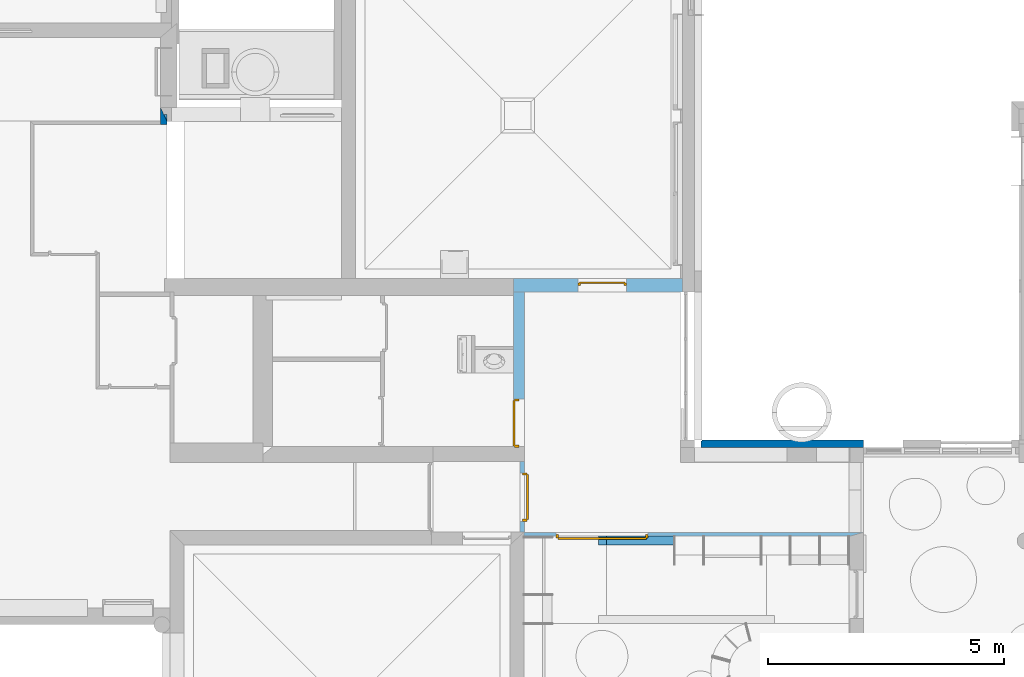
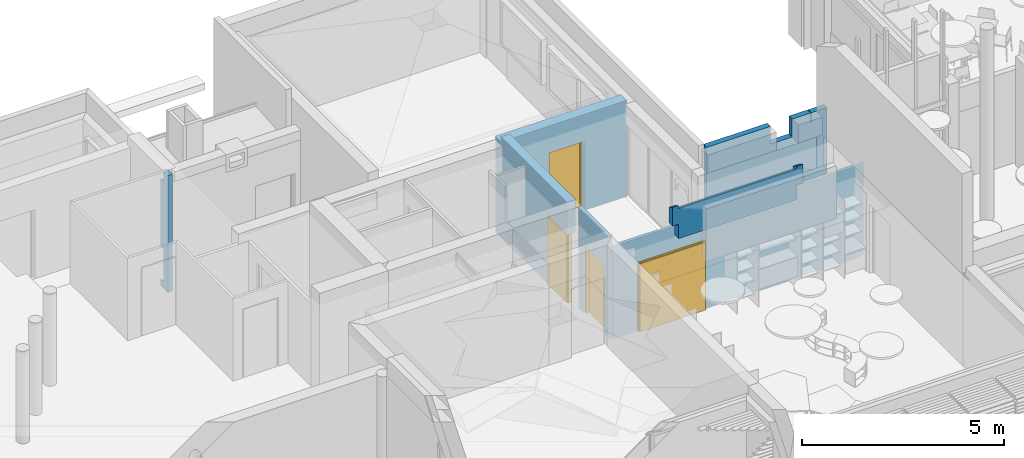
# One storey, part 39 of 64: 4 doors, 3 walls, 4 openings, plus 4 elements that do not belong to this part.
"""IFC2X3 building model written with IfcOpenShell, lengths in metres."""

from ifc_helpers import new_model, entity, si_unit, converted_unit, derived_unit, direction, frame, frame_2d, origin, origin_2d_with_axis, place, context, subcontext, project, spatial, polyline, rectangle, outline, extrude, faceted_brep, source, transform, mapped, material, layer, layer_set, layer_usage, type_object, type_shapes, element, fill, save


model = new_model("IFC2X3")

# Units and contexts
model_context = context("Model", 3, precision=1e-05, world=origin(), true_north=direction((6.123031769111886e-17, 1.0)))
body_context = subcontext(model_context, "Body", "Model", "MODEL_VIEW")
ifc_project = project(units=[si_unit("LENGTHUNIT", "METRE"), si_unit("AREAUNIT", "SQUARE_METRE"), si_unit("VOLUMEUNIT", "CUBIC_METRE"), converted_unit("PLANEANGLEUNIT", "DEGREE", entity("IfcRatioMeasure", 0.017453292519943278), si_unit("PLANEANGLEUNIT", "RADIAN"), dimensions=[0, 0, 0, 0, 0, 0, 0]), si_unit("MASSUNIT", "GRAM", prefix="KILO"), derived_unit("MASSDENSITYUNIT", [(si_unit("MASSUNIT", "GRAM", prefix="KILO"), 1), (si_unit("LENGTHUNIT", "METRE"), -3)]), derived_unit("MOMENTOFINERTIAUNIT", [(si_unit("LENGTHUNIT", "METRE"), 4)]), si_unit("TIMEUNIT", "SECOND"), si_unit("FREQUENCYUNIT", "HERTZ"), si_unit("THERMODYNAMICTEMPERATUREUNIT", "DEGREE_CELSIUS"), derived_unit("THERMALTRANSMITTANCEUNIT", [(si_unit("MASSUNIT", "GRAM", prefix="KILO"), 1), (si_unit("THERMODYNAMICTEMPERATUREUNIT", "KELVIN"), -1), (si_unit("TIMEUNIT", "SECOND"), -3)]), derived_unit("THERMALCONDUCTANCEUNIT", [(si_unit("MASSUNIT", "GRAM", prefix="KILO"), 1), (si_unit("LENGTHUNIT", "METRE"), 1), (si_unit("THERMODYNAMICTEMPERATUREUNIT", "KELVIN"), -1), (si_unit("TIMEUNIT", "SECOND"), -3)]), derived_unit("VOLUMETRICFLOWRATEUNIT", [(si_unit("LENGTHUNIT", "METRE"), 3), (si_unit("TIMEUNIT", "SECOND"), -1)]), derived_unit("MASSFLOWRATEUNIT", [(si_unit("MASSUNIT", "GRAM", prefix="KILO"), 1), (si_unit("TIMEUNIT", "SECOND"), -1)]), derived_unit("ROTATIONALFREQUENCYUNIT", [(si_unit("TIMEUNIT", "SECOND"), -1)]), si_unit("ELECTRICCURRENTUNIT", "AMPERE"), si_unit("ELECTRICVOLTAGEUNIT", "VOLT"), si_unit("POWERUNIT", "WATT"), si_unit("FORCEUNIT", "NEWTON", prefix="KILO"), si_unit("ILLUMINANCEUNIT", "LUX"), si_unit("LUMINOUSFLUXUNIT", "LUMEN"), si_unit("LUMINOUSINTENSITYUNIT", "CANDELA"), derived_unit("USERDEFINED", [(si_unit("MASSUNIT", "GRAM", prefix="KILO"), -1), (si_unit("LENGTHUNIT", "METRE"), -2), (si_unit("TIMEUNIT", "SECOND"), 3), (si_unit("LUMINOUSFLUXUNIT", "LUMEN"), 1)]), derived_unit("USERDEFINED", [(si_unit("MASSUNIT", "GRAM", prefix="KILO"), 1), (si_unit("LENGTHUNIT", "METRE"), 3), (si_unit("TIMEUNIT", "SECOND"), -3), (si_unit("ELECTRICCURRENTUNIT", "AMPERE"), -2)]), derived_unit("USERDEFINED", [(si_unit("LENGTHUNIT", "METRE"), 2), (si_unit("TIMEUNIT", "SECOND"), -2)]), derived_unit("SOUNDPOWERUNIT", [(si_unit("MASSUNIT", "GRAM", prefix="KILO"), 1), (si_unit("LENGTHUNIT", "METRE"), 2), (si_unit("TIMEUNIT", "SECOND"), -3)]), derived_unit("SOUNDPRESSUREUNIT", [(si_unit("MASSUNIT", "GRAM", prefix="KILO"), 1), (si_unit("LENGTHUNIT", "METRE"), -1), (si_unit("TIMEUNIT", "SECOND"), -2)]), derived_unit("LINEARVELOCITYUNIT", [(si_unit("LENGTHUNIT", "METRE"), 1), (si_unit("TIMEUNIT", "SECOND"), -1)]), si_unit("PRESSUREUNIT", "PASCAL"), derived_unit("USERDEFINED", [(si_unit("LENGTHUNIT", "METRE"), -2), (si_unit("MASSUNIT", "GRAM", prefix="KILO"), 1), (si_unit("TIMEUNIT", "SECOND"), -2)]), derived_unit("LINEARFORCEUNIT", [(si_unit("MASSUNIT", "GRAM", prefix="KILO"), 1), (si_unit("LENGTHUNIT", "METRE"), 1), (si_unit("TIMEUNIT", "SECOND"), -2), (si_unit("LENGTHUNIT", "METRE"), -1)]), derived_unit("PLANARFORCEUNIT", [(si_unit("MASSUNIT", "GRAM", prefix="KILO"), 1), (si_unit("LENGTHUNIT", "METRE"), 1), (si_unit("TIMEUNIT", "SECOND"), -2), (si_unit("LENGTHUNIT", "METRE"), -2)]), derived_unit("SPECIFICHEATCAPACITYUNIT", [(si_unit("LENGTHUNIT", "METRE"), 2), (si_unit("TIMEUNIT", "SECOND"), -2), (si_unit("THERMODYNAMICTEMPERATUREUNIT", "KELVIN"), -1)]), derived_unit("VAPORPERMEABILITYUNIT", [(si_unit("TIMEUNIT", "SECOND"), 1), (si_unit("LENGTHUNIT", "METRE"), -1)]), derived_unit("DYNAMICVISCOSITYUNIT", [(si_unit("MASSUNIT", "GRAM", prefix="KILO"), 1), (si_unit("LENGTHUNIT", "METRE"), -1), (si_unit("TIMEUNIT", "SECOND"), -1)]), derived_unit("THERMALEXPANSIONCOEFFICIENTUNIT", [(si_unit("THERMODYNAMICTEMPERATUREUNIT", "KELVIN"), -1)])], contexts=[model_context])

# Site, building, storey
site_placement = place(None, origin())
site = spatial("IfcSite", under=ifc_project, at=site_placement, Name="Default", CompositionType="ELEMENT")
building_placement = place(site_placement, origin())
building = spatial("IfcBuilding", under=site, at=building_placement, CompositionType="ELEMENT")
storey_placement = place(building_placement, origin())
storey = spatial("IfcBuildingStorey", under=building, at=storey_placement, Name="REZ-DE-CHAUSSÉE", CompositionType="ELEMENT", Elevation=0.0)

# Walls
wall_type_1 = type_object("IfcWallType", Name="MurExt-010", PredefinedType="NOTDEFINED")
wall_1_placement = place(storey_placement, frame((113.93075228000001, 15.3072094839, 0.0)))
element("IfcWall", 1, at=wall_1_placement, inside=storey, type_object=wall_type_1, Name="MurExt-010:MurExt-010", ObjectType="MurExt-010:MurExt-010", context=body_context, shape_type="Brep", body=[
    faceted_brep([(0.019999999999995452, 0.15999999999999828, 3.34), (0.019999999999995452, 0.14000000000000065, 3.34), (1.830000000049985, 0.14000000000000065, 3.34), (1.830000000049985, 0.15999999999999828, 3.34), (3.4500000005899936, 0.15999999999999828, 0.0), (3.4500000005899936, 0.14000000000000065, 0.0), (0.019999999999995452, 0.14000000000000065, 0.0), (0.019999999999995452, 0.15999999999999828, 0.0), (3.4500000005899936, 0.14000000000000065, 3.34), (2.4500000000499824, 0.14000000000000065, 3.34), (2.4500000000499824, 0.14000000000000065, 2.8), (1.830000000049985, 0.14000000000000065, 2.8), (3.4500000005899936, 0.15999999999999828, 3.34), (1.830000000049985, 0.15999999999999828, 2.8), (2.4500000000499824, 0.15999999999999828, 2.8), (2.4500000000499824, 0.15999999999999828, 3.34)], [[[0, 1, 2, 3]], [[4, 5, 6, 7]], [[5, 8, 9, 10, 11, 2, 1, 6]], [[12, 8, 5, 4]], [[12, 4, 7, 0, 3, 13, 14, 15]], [[1, 0, 7, 6]], [[11, 13, 3, 2]], [[14, 10, 9, 15]], [[13, 11, 10, 14]], [[8, 12, 15, 9]]]),
    faceted_brep([(0.0, 0.14000000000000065, 3.34), (0.0, 0.0, 3.34), (1.830000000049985, 0.0, 3.34), (1.830000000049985, 0.14000000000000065, 3.34), (3.4500000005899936, 0.14000000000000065, 0.0), (3.4500000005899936, 0.0, 0.0), (0.0, 0.0, 0.0), (0.0, 0.14000000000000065, 0.0), (3.4500000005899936, 0.0, 3.34), (3.0, 0.0, 3.34), (3.0, 0.0, 3.06), (2.9800000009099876, 0.0, 3.06), (2.9800000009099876, 0.0, 3.34), (2.4500000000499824, 0.0, 3.34), (2.4500000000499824, 0.0, 2.8), (1.830000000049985, 0.0, 2.8), (3.4500000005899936, 0.14000000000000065, 3.34), (1.830000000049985, 0.14000000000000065, 2.8), (2.4500000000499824, 0.14000000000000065, 2.8), (2.4500000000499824, 0.14000000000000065, 3.34), (2.9800000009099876, 0.14000000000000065, 3.34), (2.9800000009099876, 0.14000000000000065, 3.06), (3.0, 0.14000000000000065, 3.06), (3.0, 0.14000000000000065, 3.34)], [[[0, 1, 2, 3]], [[4, 5, 6, 7]], [[5, 8, 9, 10, 11, 12, 13, 14, 15, 2, 1, 6]], [[16, 8, 5, 4]], [[16, 4, 7, 0, 3, 17, 18, 19, 20, 21, 22, 23]], [[1, 0, 7, 6]], [[15, 17, 3, 2]], [[18, 14, 13, 19]], [[17, 15, 14, 18]], [[11, 21, 20, 12]], [[22, 10, 9, 23]], [[21, 11, 10, 22]], [[19, 13, 12, 20]], [[8, 16, 23, 9]]]),
])
wall_type_2 = type_object("IfcWallType", Name="MurExt-019", PredefinedType="NOTDEFINED")
wall_2_placement = place(storey_placement, frame((111.76075227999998, 13.237209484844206, 2.53)))
element("IfcWall", 2, at=wall_2_placement, inside=storey, type_object=wall_type_2, Name="MurExt-019:MurExt-019", ObjectType="MurExt-019:MurExt-019", context=body_context, shape_type="Brep", body=[
    faceted_brep([(0.17000000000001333, 1.3557929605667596e-09, 0.0), (0.17000000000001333, 0.1900000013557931, 0.0), (3.559999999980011, 0.1900000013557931, 0.0), (3.559999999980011, 1.3557929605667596e-09, 0.0), (0.17000000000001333, 1.3557929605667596e-09, 0.44000000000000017), (3.559999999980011, 1.3557929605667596e-09, 0.44000000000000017), (3.7299999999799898, 1.3557929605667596e-09, 0.44000000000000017), (3.7299999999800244, 1.3557929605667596e-09, 1.0132330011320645), (3.5600000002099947, 1.3557929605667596e-09, 1.01323300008), (3.5600000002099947, 1.3557929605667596e-09, 0.9179769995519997), (0.16999999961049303, 1.3557929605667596e-09, 0.9179769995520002), (0.1699999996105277, 1.3557929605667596e-09, 1.013232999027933), (0.0, 1.3557929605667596e-09, 1.0132330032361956), (0.0, 1.3557929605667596e-09, 0.44000000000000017), (3.7299999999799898, 0.1900000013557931, 0.44000000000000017), (3.7299999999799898, 0.19000000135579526, 0.9052560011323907), (0.17000000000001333, 0.1900000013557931, 0.44000000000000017), (0.0, 0.1900000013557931, 0.44000000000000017), (0.0, 0.1900000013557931, 0.9052559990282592), (0.16999999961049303, 0.1900000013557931, 0.9052559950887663), (0.16999999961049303, 0.1900000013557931, 0.8099999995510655), (3.5600000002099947, 0.1900000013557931, 0.8099999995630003), (3.5600000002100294, 0.1900000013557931, 0.9052559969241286), (3.559999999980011, 0.1900000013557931, 0.44000000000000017), (3.5600000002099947, 0.19000000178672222, 0.9052559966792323), (3.5600000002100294, 1.3557929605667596e-09, 1.0132329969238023), (3.5600000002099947, 0.0, 1.0132329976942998), (3.5600000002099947, 0.1900000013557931, 0.905255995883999), (0.16999999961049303, 0.0, 1.0132329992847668), (0.16999999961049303, 0.19000000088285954, 0.9052559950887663)], [[[0, 1, 2, 3]], [[4, 0, 3, 5, 6, 7, 8, 9, 10, 11, 12, 13]], [[6, 14, 15, 7]], [[1, 16, 17, 18, 19, 20, 21, 22, 15, 14, 23, 2]], [[17, 13, 12, 18]], [[4, 16, 1, 0]], [[16, 4, 13, 17]], [[23, 5, 3, 2]], [[5, 23, 14, 6]], [[24, 25, 7, 15]], [[26, 27, 21, 9]], [[28, 19, 18, 12]], [[9, 21, 20, 10]], [[29, 11, 10, 20]]]),
])

# Wall, opening, door
ifc_material_1 = material(Name="Appareillage - Pierre taillé")
ifc_layer_1 = layer(ifc_material_1, 0.29)
ifc_layer_set_1 = layer_set([ifc_layer_1], Name="Mur de base:Struct. - Pierre 290")
ifc_layer_usage_1 = layer_usage(ifc_layer_set_1, "AXIS2", "NEGATIVE", 0.145)
wall_type_3 = type_object("IfcWallType", Name="Mur de base:Struct. - Pierre 290", PredefinedType="STANDARD", material=ifc_layer_set_1)
wall_3_placement = place(storey_placement, frame((113.54075228, 18.752209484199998, 0.0), z_axis=(0.0, 0.0, 1.0), x_axis=(-1.0, 0.0, 0.0)))
wall_3 = element("IfcWallStandardCase", 3, at=wall_3_placement, inside=storey, type_object=wall_type_3, material=ifc_layer_usage_1, Name="MurExt-003", ObjectType="Mur de base:Struct. - Pierre 290", context=body_context, shape_type="SweptSolid", body=[
    extrude(rectangle(XDim=3.5900000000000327, YDim=0.28999999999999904, at=frame_2d((1.7950000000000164, 0.0), x_axis=(1.0, 0.0))), origin(), (0.0, 0.0, 1.0), 2.8999999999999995),
])
opening_1_placement = place(wall_3_placement, frame((113.54075228, 18.752209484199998, 0.0), z_axis=(0.0, 0.0, 1.0), x_axis=(-1.0, 0.0, 0.0)))
opening_1 = element("IfcOpeningElement", 4, at=opening_1_placement, cuts=wall_3, Name="MurExt-003", ObjectType="Opening", context=body_context, shape_type="SweptSolid", body=[
    extrude(rectangle(XDim=2.09, YDim=1.0300000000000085, at=frame_2d((0.0, 0.0), x_axis=(0.0, 1.0))), frame((111.83575227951, 19.2928094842, 1.045), z_axis=(0.0, -1.0, 0.0), x_axis=(1.0, 0.0, 0.0)), (0.0, 0.0, 1.0), 1.081200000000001),
])
ifc_material_2 = material(Name="Peinture - Gris clair")
door_style_1 = type_object("IfcDoorStyle", Name="Por-003", ConstructionType="NOTDEFINED", OperationType="SINGLE_SWING_RIGHT", ParameterTakesPrecedence=False, Sizeable=False, material=ifc_material_2)
shared_shape_1 = source(origin(), body_context, "Body", "Brep", [
    faceted_brep([(1.0299999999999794, 0.5906, 0.0), (0.9949999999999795, 0.5906, 0.0), (0.9949999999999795, 0.5906, 2.055), (0.03499999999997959, 0.5906, 2.055), (0.03499999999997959, 0.5906, 0.0), (0.0, 0.5906, 0.0), (0.0, 0.5906, 2.09), (1.0299999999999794, 0.5906, 2.09), (1.0299999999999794, 0.5406, 0.0), (0.9799999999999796, 0.5406, 0.0), (0.9799999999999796, 0.5756, 0.0), (0.9949999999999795, 0.5756, 0.0), (0.9949999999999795, 0.5756, 2.055), (0.03499999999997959, 0.5756, 2.055), (0.03499999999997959, 0.5756, 0.0), (0.04999999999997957, 0.5756, 0.0), (0.04999999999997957, 0.5406, 0.0), (0.0, 0.5406, 0.0), (0.0, 0.5406, 2.09), (1.0299999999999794, 0.5406, 2.09), (0.04999999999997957, 0.5406, 2.04), (0.9799999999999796, 0.5406, 2.04), (0.9799999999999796, 0.5756, 2.04), (0.04999999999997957, 0.5756, 2.04), (0.9949999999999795, 0.6156, 0.0), (0.03499999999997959, 0.6156, 0.0), (0.9949999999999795, 0.6156, 2.055), (0.03499999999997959, 0.6156, 2.055)], [[[0, 1, 2, 3, 4, 5, 6, 7]], [[0, 8, 9, 10, 11, 1]], [[1, 11, 12, 2]], [[2, 12, 13, 3]], [[3, 13, 14, 4]], [[5, 4, 14, 15, 16, 17]], [[18, 6, 5, 17]], [[19, 7, 6, 18]], [[8, 0, 7, 19]], [[9, 8, 19, 18, 17, 16, 20, 21]], [[10, 9, 21, 22]], [[11, 10, 22, 23, 15, 14, 13, 12]], [[23, 20, 16, 15]], [[22, 21, 20, 23]], [[24, 11, 14, 25]], [[26, 12, 11, 24]], [[11, 12, 13, 14]], [[25, 14, 13, 27]], [[24, 25, 27, 26]], [[27, 13, 12, 26]]]),
])
type_shapes(door_style_1, [shared_shape_1])
door_1_placement = place(opening_1_placement, frame((111.32075227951, 18.211609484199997, 0.0)))
door_1 = element("IfcDoor", 5, at=door_1_placement, inside=storey, type_object=door_style_1, material=ifc_material_2, Name="Por-003 13003:Por-003 13003", ObjectType="Por-003 13003:Por-003 13003", OverallHeight=2.09, OverallWidth=1.0300000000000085, context=body_context, shape_type="MappedRepresentation", body=[
    mapped(shared_shape_1, transform((0.0, 0.0, 0.0), scale=1.0)),
])
fill(opening_1, door_1)

ifc_layer_2 = layer(ifc_material_1, 0.1)
ifc_layer_set_2 = layer_set([ifc_layer_2], Name="Mur de base:Struct. - Pierre 100")
ifc_layer_usage_2 = layer_usage(ifc_layer_set_2, "AXIS2", "NEGATIVE", 0.05)
wall_type_4 = type_object("IfcWallType", Name="Mur de base:Struct. - Pierre 100", PredefinedType="STANDARD", material=ifc_layer_set_2)
wall_4_placement = place(storey_placement, frame((110.14075227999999, 15.017209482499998, 0.0), z_axis=(0.0, 0.0, 1.0), x_axis=(0.0, -1.0, 0.0)))
wall_4 = element("IfcWallStandardCase", 6, at=wall_4_placement, inside=storey, type_object=wall_type_4, material=ifc_layer_usage_2, Name="MurExt-004", ObjectType="Mur de base:Struct. - Pierre 100", context=body_context, shape_type="SweptSolid", body=[
    extrude(rectangle(XDim=1.4999999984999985, YDim=0.10000000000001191, at=frame_2d((0.7499999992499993, 0.0), x_axis=(-1.0, 0.0))), origin(), (0.0, 0.0, 1.0), 3.06),
])
opening_2_placement = place(wall_4_placement, frame((15.017209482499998, -110.14075227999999, 0.0), z_axis=(0.0, 0.0, 1.0), x_axis=(0.0, 1.0, 0.0)))
opening_2 = element("IfcOpeningElement", 7, at=opening_2_placement, cuts=wall_4, Name="MurExt-004", ObjectType="Opening", context=body_context, shape_type="SweptSolid", body=[
    extrude(rectangle(XDim=2.09, YDim=1.0299999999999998, at=frame_2d((0.0, 0.0), x_axis=(0.0, 1.0))), frame((109.75315227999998, 14.257209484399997, 1.045), z_axis=(1.0, 0.0, 0.0), x_axis=(0.0, -1.0, 0.0)), (0.0, 0.0, 1.0), 0.775199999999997),
])
door_style_2 = type_object("IfcDoorStyle", Name="Por-003", ConstructionType="NOTDEFINED", OperationType="SINGLE_SWING_LEFT", ParameterTakesPrecedence=False, Sizeable=False, material=ifc_material_2)
shared_shape_2 = source(origin(), body_context, "Body", "Brep", [
    faceted_brep([(0.0, -0.2876000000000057, 0.0), (0.0, -0.2876000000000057, 2.09), (1.0299999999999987, -0.2876000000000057, 2.09), (1.0299999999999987, -0.2876000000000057, 0.0), (0.9949999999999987, -0.2876000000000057, 0.0), (0.9949999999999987, -0.2876000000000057, 2.055), (0.03499999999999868, -0.2876000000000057, 2.055), (0.03499999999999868, -0.2876000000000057, 0.0), (0.0, -0.3876000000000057, 0.0), (0.0, -0.3876000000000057, 2.09), (1.0299999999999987, -0.3876000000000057, 2.09), (1.0299999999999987, -0.3876000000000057, 0.0), (0.9799999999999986, -0.3876000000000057, 0.0), (0.9799999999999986, -0.3026000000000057, 0.0), (0.9949999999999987, -0.3026000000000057, 0.0), (0.9949999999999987, -0.3026000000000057, 2.055), (0.03499999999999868, -0.3026000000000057, 2.055), (0.03499999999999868, -0.3026000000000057, 0.0), (0.04999999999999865, -0.3026000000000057, 0.0), (0.04999999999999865, -0.3876000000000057, 0.0), (0.9799999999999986, -0.3876000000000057, 2.04), (0.04999999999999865, -0.3876000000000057, 2.04), (0.9799999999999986, -0.3026000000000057, 2.04), (0.04999999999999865, -0.3026000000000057, 2.04), (0.03499999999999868, -0.26260000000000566, 0.0), (0.9949999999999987, -0.26260000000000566, 0.0), (0.03499999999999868, -0.26260000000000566, 2.055), (0.9949999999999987, -0.26260000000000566, 2.055)], [[[0, 1, 2, 3, 4, 5, 6, 7]], [[8, 9, 1, 0]], [[9, 10, 2, 1]], [[10, 11, 3, 2]], [[3, 11, 12, 13, 14, 4]], [[5, 4, 14, 15]], [[6, 5, 15, 16]], [[7, 6, 16, 17]], [[0, 7, 17, 18, 19, 8]], [[19, 8, 9, 10, 11, 12, 20, 21]], [[22, 13, 12, 20]], [[17, 16, 15, 14, 13, 22, 23, 18]], [[18, 23, 21, 19]], [[23, 22, 20, 21]], [[24, 25, 14, 17]], [[24, 26, 27, 25]], [[25, 27, 15, 14]], [[17, 14, 15, 16]], [[26, 24, 17, 16]], [[27, 26, 16, 15]]]),
])
type_shapes(door_style_2, [shared_shape_2])
door_2_placement = place(opening_2_placement, frame((110.52835227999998, 14.772209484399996, 0.0), z_axis=(0.0, 0.0, 1.0), x_axis=(0.0, -1.0, 0.0)))
door_2 = element("IfcDoor", 8, at=door_2_placement, inside=storey, type_object=door_style_2, material=ifc_material_2, Name="Por-003 22620:Por-003 22620", ObjectType="Por-003 22620:Por-003 22620", OverallHeight=2.09, OverallWidth=1.0299999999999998, context=body_context, shape_type="MappedRepresentation", body=[
    mapped(shared_shape_2, transform((0.0, 0.0, 0.0), scale=1.0)),
])
fill(opening_2, door_2)

# Wall
ifc_material_3 = material(Name="Plâtre - Plaques de plâtre")
ifc_layer_3 = layer(ifc_material_3, 0.013)
ifc_material_4 = material(Name="Isolation - Fibre de verre")
ifc_layer_4 = layer(ifc_material_4, 0.127)
ifc_layer_set_3 = layer_set([ifc_layer_3, ifc_layer_4], Name="Mur de base:ABA doublage 14cm 140")
wall_type_5 = type_object("IfcWallType", Name="Mur de base:ABA doublage 14cm 140", PredefinedType="STANDARD", material=ifc_layer_set_3)
wall_5_placement = place(storey_placement, frame((102.53075227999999, 22.167209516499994, -1.1999999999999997), z_axis=(0.0, 0.0, 1.0), x_axis=(0.0, 1.0, 0.0)))
element("IfcWallStandardCase", 9, at=wall_5_placement, inside=storey, type_object=wall_type_5, Name="MurExt-026", ObjectType="Mur de base:ABA doublage 14cm 140", context=body_context, shape_type="Brep", body=[
    faceted_brep([(0.0, -0.07000000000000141, 0.0), (0.05999996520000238, -0.07000000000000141, 0.0), (0.05999996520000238, -0.07000000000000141, 0.2), (0.20999996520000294, -0.07000000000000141, 0.2), (0.20999996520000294, -0.07000000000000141, 1.1999999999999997), (0.05999996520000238, -0.07000000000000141, 1.1999999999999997), (0.05999996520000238, -0.07000000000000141, 3.2499999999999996), (0.20999996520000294, -0.07000000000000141, 3.249999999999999), (0.20999996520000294, -0.07000000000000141, 3.54), (0.0, -0.07000000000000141, 3.54), (0.0, 0.07000000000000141, 0.0), (0.0, 0.07000000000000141, 1.1999999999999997), (0.0, 0.07000000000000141, 3.54), (0.20999996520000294, 0.07000000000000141, 3.54), (0.20999996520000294, 0.07000000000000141, 3.2499999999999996), (0.3599999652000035, 0.07000000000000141, 3.2499999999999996), (0.3599999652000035, 0.07000000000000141, 1.1999999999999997), (0.20999996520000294, 0.07000000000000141, 1.1999999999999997), (0.20999996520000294, 0.07000000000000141, 0.2), (0.3599999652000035, 0.07000000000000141, 0.2), (0.3599999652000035, 0.07000000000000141, 0.0), (0.20999996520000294, 0.0, 0.2), (0.20999996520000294, 0.0, 1.1999999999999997), (0.20999996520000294, 0.0, 3.2499999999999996)], [[[0, 1, 2, 3, 4, 5, 6, 7, 8, 9]], [[10, 11, 12, 13, 14, 15, 16, 17, 18, 19, 20]], [[1, 0, 10, 20]], [[9, 8, 13, 12]], [[0, 9, 12, 11, 10]], [[18, 21, 19]], [[4, 3, 21, 18, 17, 22]], [[16, 22, 17]], [[8, 7, 23, 14, 13]], [[14, 23, 15]], [[2, 1, 20, 19, 21]], [[6, 5, 22, 16, 15, 23]], [[21, 3, 2]], [[22, 5, 4]], [[23, 7, 6]]]),
])

# Wall, opening, door
ifc_layer_5 = layer(ifc_material_1, 0.08)
ifc_layer_set_4 = layer_set([ifc_layer_5], Name="Mur de base:Struct. - Pierre 80")
ifc_layer_usage_3 = layer_usage(ifc_layer_set_4, "AXIS2", "NEGATIVE", 0.04)
wall_type_6 = type_object("IfcWallType", Name="Mur de base:Struct. - Pierre 80", PredefinedType="STANDARD", material=ifc_layer_set_4)
wall_6_placement = place(storey_placement, frame((110.17075228, 13.4672094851, 0.0)))
wall_6 = element("IfcWallStandardCase", 10, at=wall_6_placement, inside=storey, type_object=wall_type_6, material=ifc_layer_usage_3, Name="MurExt-007", ObjectType="Mur de base:Struct. - Pierre 80", context=body_context, shape_type="SweptSolid", body=[
    extrude(outline(polyline([(0.0, -0.03999999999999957), (6.920000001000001, -0.03999999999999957), (7.2100000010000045, 0.03999999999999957), (0.0, 0.03999999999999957), (0.0, -0.03999999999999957)])), origin(), (0.0, 0.0, 1.0), 2.8),
])
opening_3_placement = place(wall_6_placement, frame((-110.17075228, -13.4672094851, 0.0)))
opening_3 = element("IfcOpeningElement", 11, at=opening_3_placement, cuts=wall_6, Name="MurExt-007", ObjectType="Opening", context=body_context, shape_type="SweptSolid", body=[
    extrude(rectangle(XDim=2.09, YDim=1.9500000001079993, at=frame_2d((0.0, 8.659739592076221e-15), x_axis=(1.0, 0.0))), frame((111.83075228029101, 13.3856094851, 1.045), z_axis=(0.0, 1.0, 0.0), x_axis=(0.0, 0.0, -1.0)), (0.0, 0.0, 1.0), 0.16320000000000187),
])
door_style_3 = type_object("IfcDoorStyle", Name="Por-003", ConstructionType="NOTDEFINED", OperationType="DOUBLE_DOOR_SINGLE_SWING", ParameterTakesPrecedence=False, Sizeable=False, material=ifc_material_2)
shared_shape_3 = source(origin(), body_context, "Body", "Brep", [
    faceted_brep([(0.0, 0.16160000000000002, 0.0), (0.0, 0.16160000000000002, 2.09), (1.9500000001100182, 0.16160000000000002, 2.09), (1.9500000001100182, 0.16160000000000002, 0.0), (1.9150000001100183, 0.16160000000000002, 0.0), (1.9150000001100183, 0.16160000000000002, 2.055), (0.03500000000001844, 0.16160000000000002, 2.055), (0.03500000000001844, 0.16160000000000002, 0.0), (0.0, 0.08159999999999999, 0.0), (0.0, 0.08159999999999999, 2.09), (1.9500000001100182, 0.08159999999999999, 2.09), (1.9500000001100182, 0.08159999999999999, 0.0), (1.9000000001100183, 0.08159999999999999, 0.0), (1.9000000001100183, 0.14659999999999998, 0.0), (1.9150000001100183, 0.14659999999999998, 0.0), (1.9150000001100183, 0.14659999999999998, 2.055), (0.03500000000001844, 0.14659999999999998, 2.055), (0.03500000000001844, 0.14659999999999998, 0.0), (0.05000000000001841, 0.14659999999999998, 0.0), (0.05000000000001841, 0.08159999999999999, 0.0), (1.9000000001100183, 0.08159999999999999, 2.04), (0.05000000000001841, 0.08159999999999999, 2.04), (1.9000000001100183, 0.14659999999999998, 2.04), (0.05000000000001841, 0.14659999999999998, 2.04), (1.9125000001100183, 0.1866, 0.0), (1.9125000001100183, 0.14659999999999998, 0.0), (0.9775000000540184, 0.14659999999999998, 0.0), (0.9775000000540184, 0.1866, 0.0), (1.9125000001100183, 0.1866, 2.055), (1.9125000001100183, 0.14659999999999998, 2.055), (0.9775000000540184, 0.14659999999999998, 2.055), (0.9775000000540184, 0.1866, 2.055), (0.03500000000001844, 0.1866, 0.0), (0.9750000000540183, 0.1866, 0.0), (0.9750000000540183, 0.14659999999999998, 0.0), (0.03500000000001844, 0.1866, 2.055), (0.9750000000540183, 0.1866, 2.055), (0.9750000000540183, 0.14659999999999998, 2.055), (0.9600000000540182, 0.1916, 0.0), (0.9600000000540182, 0.1916, 2.055), (0.9900000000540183, 0.1916, 2.055), (0.9900000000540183, 0.1916, 0.0), (0.9600000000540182, 0.1866, 0.0), (0.9600000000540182, 0.1866, 2.055), (0.9900000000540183, 0.1866, 2.055), (0.9900000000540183, 0.1866, 0.0)], [[[0, 1, 2, 3, 4, 5, 6, 7]], [[8, 9, 1, 0]], [[9, 10, 2, 1]], [[10, 11, 3, 2]], [[3, 11, 12, 13, 14, 4]], [[5, 4, 14, 15]], [[6, 5, 15, 16]], [[7, 6, 16, 17]], [[0, 7, 17, 18, 19, 8]], [[19, 8, 9, 10, 11, 12, 20, 21]], [[22, 13, 12, 20]], [[17, 16, 15, 14, 13, 22, 23, 18]], [[18, 23, 21, 19]], [[23, 22, 20, 21]], [[24, 25, 26, 27]], [[28, 29, 25, 24]], [[25, 29, 30, 26]], [[27, 26, 30, 31]], [[24, 27, 31, 28]], [[31, 30, 29, 28]], [[32, 33, 34, 17]], [[32, 35, 36, 33]], [[33, 36, 37, 34]], [[17, 34, 37, 16]], [[35, 32, 17, 16]], [[36, 35, 16, 37]], [[38, 39, 40, 41]], [[38, 42, 43, 39]], [[39, 43, 44, 40]], [[40, 44, 45, 41]], [[41, 45, 42, 38]], [[45, 44, 43, 42]]]),
])
type_shapes(door_style_3, [shared_shape_3])
door_3_placement = place(opening_3_placement, frame((112.80575228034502, 13.548809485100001, 0.0), z_axis=(0.0, 0.0, 1.0), x_axis=(-1.0, 0.0, 0.0)))
door_3 = element("IfcDoor", 12, at=door_3_placement, inside=storey, type_object=door_style_3, material=ifc_material_2, Name="Por-003 24077:Por-003 24077", ObjectType="Por-003 24077:Por-003 24077", OverallHeight=2.09, OverallWidth=1.9500000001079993, context=body_context, shape_type="MappedRepresentation", body=[
    mapped(shared_shape_3, transform((0.0, 0.0, 0.0), scale=1.0)),
])
fill(opening_3, door_3)

ifc_layer_6 = layer(ifc_material_1, 0.24)
ifc_layer_set_5 = layer_set([ifc_layer_6], Name="Mur de base:Struct. - Pierre 240")
ifc_layer_usage_4 = layer_usage(ifc_layer_set_5, "AXIS2", "NEGATIVE", 0.12)
wall_type_7 = type_object("IfcWallType", Name="Mur de base:Struct. - Pierre 240", PredefinedType="STANDARD", material=ifc_layer_set_5)
wall_7_placement = place(storey_placement, frame((110.07075227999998, 18.6072094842, 0.0), z_axis=(0.0, 0.0, 1.0), x_axis=(0.0, -1.0, 0.0)))
wall_7 = element("IfcWallStandardCase", 13, at=wall_7_placement, inside=storey, type_object=wall_type_7, material=ifc_layer_usage_4, Name="MurExt-003", ObjectType="Mur de base:Struct. - Pierre 240", context=body_context, shape_type="SweptSolid", body=[
    extrude(rectangle(XDim=3.280000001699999, YDim=0.24000000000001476, at=frame_2d((1.6400000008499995, 0.0), x_axis=(-1.0, 0.0))), origin(), (0.0, 0.0, 1.0), 3.06),
])
opening_4_placement = place(wall_7_placement, frame((18.6072094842, -110.07075227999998, 0.0), z_axis=(0.0, 0.0, 1.0), x_axis=(0.0, 1.0, 0.0)))
opening_4 = element("IfcOpeningElement", 14, at=opening_4_placement, cuts=wall_7, Name="MurExt-003", ObjectType="Opening", context=body_context, shape_type="SweptSolid", body=[
    extrude(rectangle(XDim=2.09, YDim=1.0299999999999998, at=origin_2d_with_axis()), frame((109.68315227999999, 15.827209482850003, 1.045), z_axis=(1.0, 0.0, 0.0), x_axis=(0.0, 0.0, -1.0)), (0.0, 0.0, 1.0), 0.775199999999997),
])
door_style_4 = type_object("IfcDoorStyle", Name="Por-003", ConstructionType="NOTDEFINED", OperationType="SINGLE_SWING_LEFT", ParameterTakesPrecedence=False, Sizeable=False, material=ifc_material_2)
shared_shape_4 = source(origin(), body_context, "Body", "Brep", [
    faceted_brep([(0.0, 0.4875999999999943, 0.0), (0.0, 0.4875999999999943, 2.09), (1.0299999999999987, 0.4875999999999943, 2.09), (1.0299999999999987, 0.4875999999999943, 0.0), (0.9949999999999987, 0.4875999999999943, 0.0), (0.9949999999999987, 0.4875999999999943, 2.055), (0.03499999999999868, 0.4875999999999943, 2.055), (0.03499999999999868, 0.4875999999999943, 0.0), (0.0, 0.38759999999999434, 0.0), (0.0, 0.38759999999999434, 2.09), (1.0299999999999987, 0.38759999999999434, 2.09), (1.0299999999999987, 0.38759999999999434, 0.0), (0.9799999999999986, 0.38759999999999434, 0.0), (0.9799999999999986, 0.47259999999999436, 0.0), (0.9949999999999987, 0.47259999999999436, 0.0), (0.9949999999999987, 0.47259999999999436, 2.055), (0.03499999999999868, 0.47259999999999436, 2.055), (0.03499999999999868, 0.47259999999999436, 0.0), (0.04999999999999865, 0.47259999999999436, 0.0), (0.04999999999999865, 0.38759999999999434, 0.0), (0.9799999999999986, 0.38759999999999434, 2.04), (0.04999999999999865, 0.38759999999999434, 2.04), (0.9799999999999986, 0.47259999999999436, 2.04), (0.04999999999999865, 0.47259999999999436, 2.04), (0.03499999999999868, 0.5125999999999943, 0.0), (0.9949999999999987, 0.5125999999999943, 0.0), (0.03499999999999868, 0.5125999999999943, 2.055), (0.9949999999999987, 0.5125999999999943, 2.055)], [[[0, 1, 2, 3, 4, 5, 6, 7]], [[8, 9, 1, 0]], [[9, 10, 2, 1]], [[10, 11, 3, 2]], [[3, 11, 12, 13, 14, 4]], [[5, 4, 14, 15]], [[6, 5, 15, 16]], [[7, 6, 16, 17]], [[0, 7, 17, 18, 19, 8]], [[19, 8, 9, 10, 11, 12, 20, 21]], [[22, 13, 12, 20]], [[17, 16, 15, 14, 13, 22, 23, 18]], [[18, 23, 21, 19]], [[23, 22, 20, 21]], [[24, 25, 14, 17]], [[24, 26, 27, 25]], [[25, 27, 15, 14]], [[17, 14, 15, 16]], [[26, 24, 17, 16]], [[27, 26, 16, 15]]]),
])
type_shapes(door_style_4, [shared_shape_4])
door_4_placement = place(opening_4_placement, frame((110.45835227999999, 15.312209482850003, 0.0), z_axis=(0.0, 0.0, 1.0), x_axis=(0.0, 1.0, 0.0)))
door_4 = element("IfcDoor", 15, at=door_4_placement, inside=storey, type_object=door_style_4, material=ifc_material_2, Name="Por-003 22620:Por-003 22620", ObjectType="Por-003 22620:Por-003 22620", OverallHeight=2.09, OverallWidth=1.0299999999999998, context=body_context, shape_type="MappedRepresentation", body=[
    mapped(shared_shape_4, transform((0.0, 0.0, 0.0), scale=1.0)),
])
fill(opening_4, door_4)

save(model, "model.ifc")
